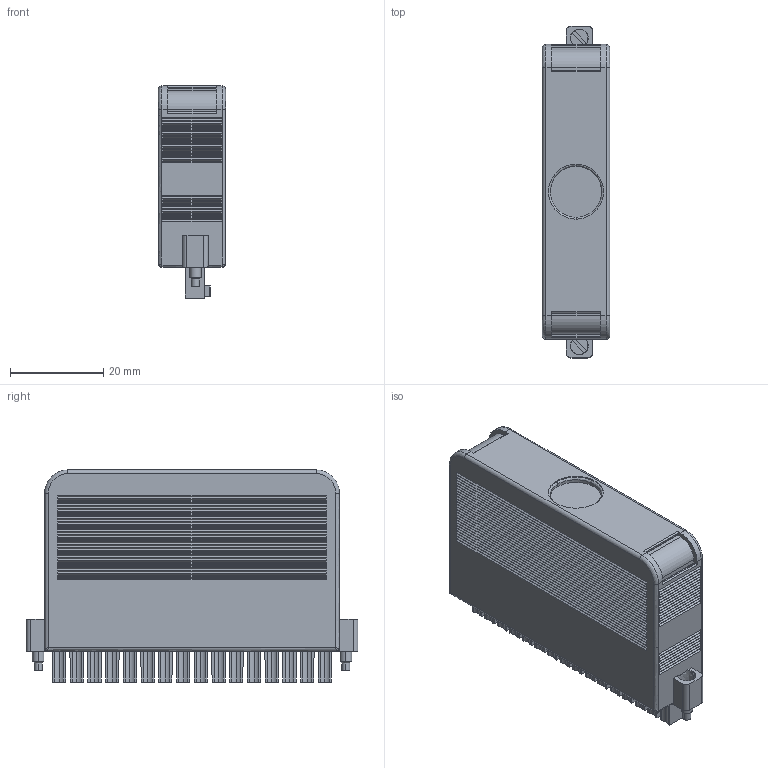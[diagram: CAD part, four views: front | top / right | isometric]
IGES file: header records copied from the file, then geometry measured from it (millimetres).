
Start section:  PTC IGES file: conn_crio_16_pos_cmbcn_tb.igs
Global section: file name: conn_crio_16_pos_cmbcn_tb.igs; native system: Pro/ENGINEER by Parametric Technology Corporation; preprocessor: 2006080; author: chrisj; organization: Unknown; date: 070125.115920; units: inch
Bounding box: 14.5 x 71.35 x 45.6 mm (x, y, z)
Surface area: 12863.8 mm2 (no closed solid volume)
Topology: 0 solids, 0 shells, 1396 faces, 6946 edges, 6896 vertices
Faces by surface type: bspline 993, revolution 403
